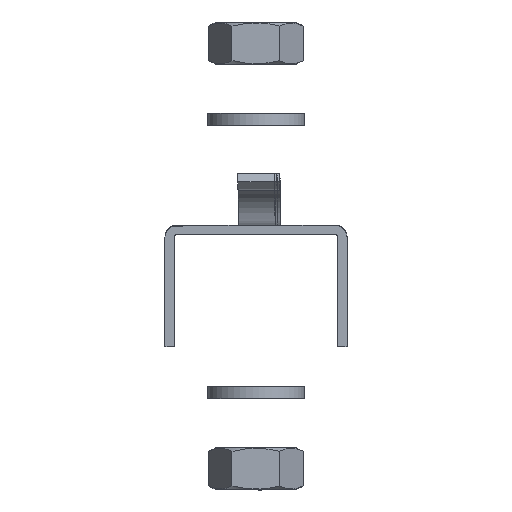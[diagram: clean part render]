
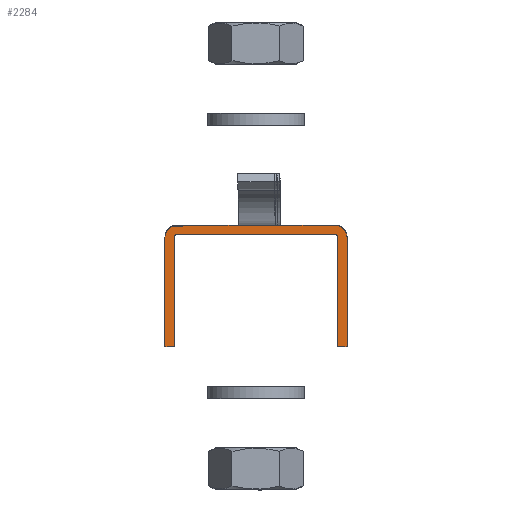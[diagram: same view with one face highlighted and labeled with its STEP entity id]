
A CAD part, front view. The second image highlights one B-rep face of the part: STEP entity #2284.
In plain terms, the highlighted planar face has unit normal (0, -1, 0).
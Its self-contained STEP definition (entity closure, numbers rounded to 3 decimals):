
#121=PLANE($,#7096);
#2284=ADVANCED_FACE($,(#2510),#121,.T.);
#2510=FACE_OUTER_BOUND($,#2760,.T.);
#2760=EDGE_LOOP($,(#3642,#3643,#3644,#3645,#3646));
#3642=ORIENTED_EDGE($,*,*,#4698,.T.);
#3643=ORIENTED_EDGE($,*,*,#4702,.T.);
#3644=ORIENTED_EDGE($,*,*,#4701,.T.);
#3645=ORIENTED_EDGE($,*,*,#4700,.T.);
#3646=ORIENTED_EDGE($,*,*,#4699,.T.);
#4698=EDGE_CURVE($,#5694,#5698,#6979,.T.);
#4699=EDGE_CURVE($,#5695,#5694,#6295,.T.);
#4700=EDGE_CURVE($,#5696,#5695,#6296,.T.);
#4701=EDGE_CURVE($,#5697,#5696,#6980,.T.);
#4702=EDGE_CURVE($,#5698,#5697,#6297,.T.);
#5694=VERTEX_POINT($,#13845);
#5695=VERTEX_POINT($,#13846);
#5696=VERTEX_POINT($,#13847);
#5697=VERTEX_POINT($,#13848);
#5698=VERTEX_POINT($,#13849);
#6295=B_SPLINE_CURVE_WITH_KNOTS($,1,(#13827,#13828),.UNSPECIFIED.,.F.,.F.,
(2,2),(-43.717,-25.717),.UNSPECIFIED.);
#6296=B_SPLINE_CURVE_WITH_KNOTS($,1,(#13829,#13830),.UNSPECIFIED.,.F.,.F.,
(2,2),(-45.217,-43.717),.UNSPECIFIED.);
#6297=B_SPLINE_CURVE_WITH_KNOTS($,1,(#13842,#13843),.UNSPECIFIED.,.F.,.F.,
(2,2),(-115.,-113.5),.UNSPECIFIED.);
#6979=(
BOUNDED_CURVE()
B_SPLINE_CURVE(2,(#13818,#13819,#13820,#13821,#13822,#13823,#13824,#13825,
#13826),.UNSPECIFIED.,.F.,.F.)
B_SPLINE_CURVE_WITH_KNOTS((3,2,2,2,3),(-160.571,-159.785,
-133.785,-133.,-115.),.UNSPECIFIED.)
CURVE()
GEOMETRIC_REPRESENTATION_ITEM()
RATIONAL_B_SPLINE_CURVE((1.,0.707,1.,1.,1.,0.707,
1.,1.,1.))
REPRESENTATION_ITEM($)
);
#6980=(
BOUNDED_CURVE()
B_SPLINE_CURVE(2,(#13831,#13832,#13833,#13834,#13835,#13836,#13837,#13838,
#13839,#13840,#13841),.UNSPECIFIED.,.F.,.F.)
B_SPLINE_CURVE_WITH_KNOTS((3,2,2,2,2,3),(-113.5,-95.5,-92.358,
-66.358,-63.217,-45.217),.UNSPECIFIED.)
CURVE()
GEOMETRIC_REPRESENTATION_ITEM()
RATIONAL_B_SPLINE_CURVE((1.,1.,1.,0.707,1.,1.,1.,0.707,
1.,1.,1.))
REPRESENTATION_ITEM($)
);
#7096=AXIS2_PLACEMENT_3D($,#13844,#7164,$);
#7164=DIRECTION($,(0.,-1.,0.));
#13818=CARTESIAN_POINT($,(-13.5,-463.969,-2.));
#13819=CARTESIAN_POINT($,(-13.5,-463.969,-1.5));
#13820=CARTESIAN_POINT($,(-13.,-463.969,-1.5));
#13821=CARTESIAN_POINT($,(0.,-463.969,-1.5));
#13822=CARTESIAN_POINT($,(13.,-463.969,-1.5));
#13823=CARTESIAN_POINT($,(13.5,-463.969,-1.5));
#13824=CARTESIAN_POINT($,(13.5,-463.969,-2.));
#13825=CARTESIAN_POINT($,(13.5,-463.969,-11.));
#13826=CARTESIAN_POINT($,(13.5,-463.969,-20.));
#13827=CARTESIAN_POINT($,(-13.5,-463.969,-20.));
#13828=CARTESIAN_POINT($,(-13.5,-463.969,-2.));
#13829=CARTESIAN_POINT($,(-15.,-463.969,-20.));
#13830=CARTESIAN_POINT($,(-13.5,-463.969,-20.));
#13831=CARTESIAN_POINT($,(15.,-463.969,-20.));
#13832=CARTESIAN_POINT($,(15.,-463.969,-11.));
#13833=CARTESIAN_POINT($,(15.,-463.969,-2.));
#13834=CARTESIAN_POINT($,(15.,-463.969,0.));
#13835=CARTESIAN_POINT($,(13.,-463.969,0.));
#13836=CARTESIAN_POINT($,(0.,-463.969,0.));
#13837=CARTESIAN_POINT($,(-13.,-463.969,0.));
#13838=CARTESIAN_POINT($,(-15.,-463.969,0.));
#13839=CARTESIAN_POINT($,(-15.,-463.969,-2.));
#13840=CARTESIAN_POINT($,(-15.,-463.969,-11.));
#13841=CARTESIAN_POINT($,(-15.,-463.969,-20.));
#13842=CARTESIAN_POINT($,(13.5,-463.969,-20.));
#13843=CARTESIAN_POINT($,(15.,-463.969,-20.));
#13844=CARTESIAN_POINT($,(-15.,-463.969,-20.));
#13845=CARTESIAN_POINT($,(-13.5,-463.969,-2.));
#13846=CARTESIAN_POINT($,(-13.5,-463.969,-20.));
#13847=CARTESIAN_POINT($,(-15.,-463.969,-20.));
#13848=CARTESIAN_POINT($,(15.,-463.969,-20.));
#13849=CARTESIAN_POINT($,(13.5,-463.969,-20.));
